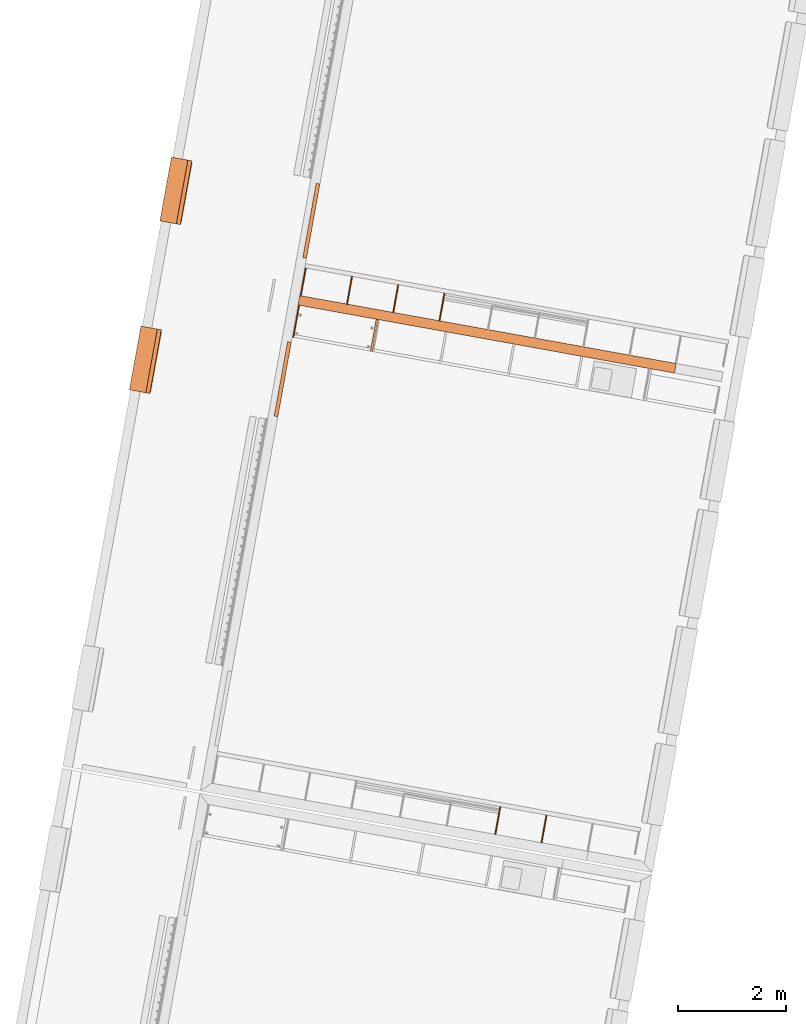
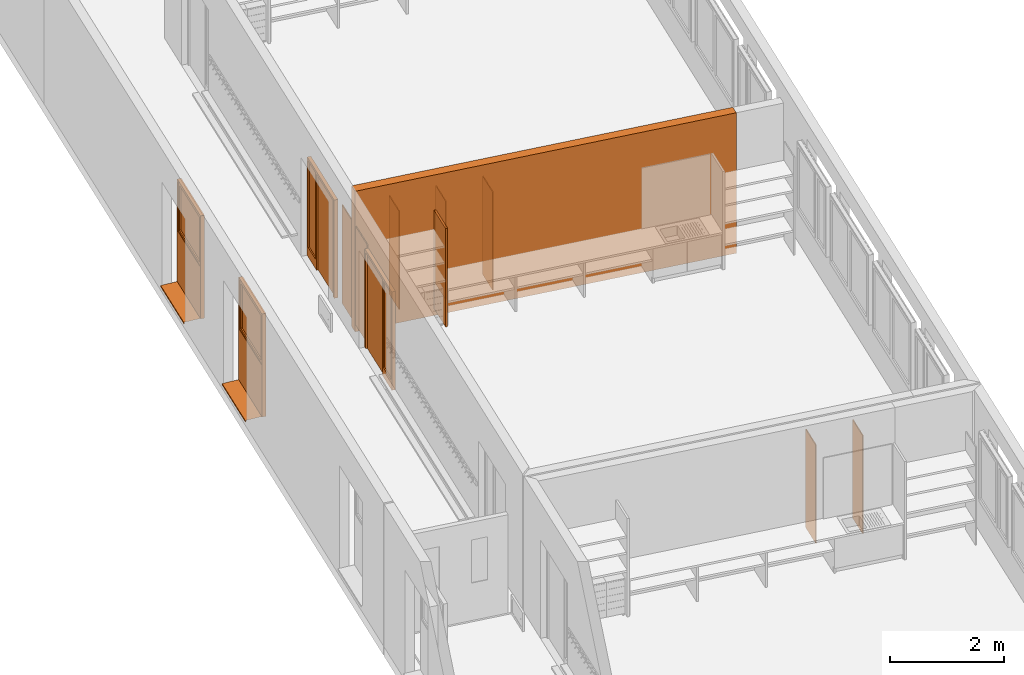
# One storey, part 21 of 52: 13 proxies.
"""IFC2X3 building model written with IfcOpenShell, lengths in metres."""

from ifc_helpers import new_model, entity, si_unit, converted_unit, derived_unit, money_unit, direction, frame, origin_with_axes, place, context, subcontext, project, spatial, polyline, outline, extrude, open_shell, faceted_brep, surface_model, source, transform, mapped, material, type_object, element, save


model = new_model("IFC2X3")

# Units and contexts
model_context = context("Model", 3, precision=1e-05, world=origin_with_axes(), true_north=direction((0.0, 1.0)))
body_context = subcontext(model_context, "Body", "Model", "MODEL_VIEW")
ifc_project = project(units=[si_unit("LENGTHUNIT", "METRE"), si_unit("AREAUNIT", "SQUARE_METRE"), si_unit("VOLUMEUNIT", "CUBIC_METRE"), converted_unit("PLANEANGLEUNIT", "DEGREE", entity("IfcPlaneAngleMeasure", 0.0174532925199), si_unit("PLANEANGLEUNIT", "RADIAN"), dimensions=[0, 0, 0, 0, 0, 0, 0]), money_unit("CHF"), converted_unit("TIMEUNIT", "Year", entity("IfcTimeMeasure", 31556926.0), si_unit("TIMEUNIT", "SECOND"), dimensions=[0, 0, 1, 0, 0, 0, 0]), si_unit("MASSUNIT", "GRAM", prefix="KILO"), si_unit("THERMODYNAMICTEMPERATUREUNIT", "DEGREE_CELSIUS"), si_unit("LUMINOUSINTENSITYUNIT", "LUMEN"), si_unit("ENERGYUNIT", "JOULE", prefix="MEGA"), derived_unit("THERMALCONDUCTANCEUNIT", [(si_unit("POWERUNIT", "WATT"), 1), (si_unit("LENGTHUNIT", "METRE"), -1), (si_unit("THERMODYNAMICTEMPERATUREUNIT", "KELVIN"), -1)]), derived_unit("SPECIFICHEATCAPACITYUNIT", [(si_unit("ENERGYUNIT", "JOULE"), 1), (si_unit("MASSUNIT", "GRAM", prefix="KILO"), -1), (si_unit("THERMODYNAMICTEMPERATUREUNIT", "KELVIN"), -1)]), derived_unit("MASSDENSITYUNIT", [(si_unit("MASSUNIT", "GRAM", prefix="KILO"), 1), (si_unit("VOLUMEUNIT", "CUBIC_METRE"), -1)])], contexts=[model_context])

# Site, building, storey
site_placement = place(None, frame((0.0, 0.0, 0.0), z_axis=(0.0, 0.0, 1.0), x_axis=(-0.177771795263, -0.984071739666, 0.0)))
site = spatial("IfcSite", under=ifc_project, at=site_placement, Name="Site", CompositionType="ELEMENT")
building_placement = place(site_placement, origin_with_axes())
building = spatial("IfcBuilding", under=site, at=building_placement, Name="Bâtiment", CompositionType="ELEMENT")
storey_placement = place(building_placement, frame((0.0, 0.0, 3.2), z_axis=(0.0, 0.0, 1.0), x_axis=(1.0, 0.0, 0.0)))
storey = spatial("IfcBuildingStorey", under=building, at=storey_placement, Name="R+1", CompositionType="ELEMENT", Elevation=3.2)

# Proxies
ifc_material_1 = material(Name="_BA banché RAL9007")
building_element_proxy_type_1 = type_object("IfcBuildingElementProxyType", Name="_BA banché RAL9007 180", PredefinedType="NOTDEFINED")
proxy_1_placement = place(storey_placement, frame((119.284841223, -156.627151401, -0.15), z_axis=(0.0, 0.0, 1.0), x_axis=(0.0, 1.0, 0.0)))
element("IfcBuildingElementProxy", 1, at=proxy_1_placement, inside=storey, type_object=building_element_proxy_type_1, material=ifc_material_1, Name="M refend", context=body_context, shape_type="SweptSolid", body=[
    extrude(outline(polyline([(0.18, 0.0), (7.26899999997, 0.0), (7.26899999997, 0.18), (0.179999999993, 0.18), (0.18, 0.0)])), origin_with_axes(), (0.0, 0.0, 1.0), 3.0),
])
ifc_material_2 = material(Name="_panneau mélaminé")
building_element_proxy_type_2 = type_object("IfcBuildingElementProxyType", Name="_panneau mélaminé 40", PredefinedType="NOTDEFINED")
proxy_2_placement = place(storey_placement, frame((119.884841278, -154.978236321, 0.0), z_axis=(0.0, 0.0, 1.0), x_axis=(-1.0, 0.0, 0.0)))
element("IfcBuildingElementProxy", 2, at=proxy_2_placement, inside=storey, type_object=building_element_proxy_type_2, material=ifc_material_2, Name="cloison-fd-classe G", context=body_context, shape_type="SweptSolid", body=[
    extrude(outline(polyline([(0.0, -0.04), (0.600000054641, -0.04), (0.600000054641, 0.0), (0.0, 0.0), (0.0, -0.04)])), origin_with_axes(), (0.0, 0.0, 1.0), 2.1),
])
building_element_proxy_type_3 = type_object("IfcBuildingElementProxyType", Name="_panneau mélaminé 19", PredefinedType="NOTDEFINED")
proxy_3_placement = place(storey_placement, frame((119.104841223, -156.418136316, 0.0), z_axis=(0.0, 0.0, 1.0), x_axis=(-1.0, 0.0, 0.0)))
element("IfcBuildingElementProxy", 3, at=proxy_3_placement, inside=storey, type_object=building_element_proxy_type_3, material=ifc_material_2, Name="cloison pl-classe", context=body_context, shape_type="SweptSolid", body=[
    extrude(outline(polyline([(0.0, 0.0), (0.519999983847, 0.0), (0.519999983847, 0.019), (0.0, 0.019), (0.0, 0.0)])), origin_with_axes(), (0.0, 0.0, 1.0), 2.1),
])
proxy_4_placement = place(storey_placement, frame((119.104841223, -155.556651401, 0.0), z_axis=(0.0, 0.0, 1.0), x_axis=(-1.0, 0.0, 0.0)))
element("IfcBuildingElementProxy", 4, at=proxy_4_placement, inside=storey, type_object=building_element_proxy_type_3, material=ifc_material_2, Name="cloison pl-classe", context=body_context, shape_type="SweptSolid", body=[
    extrude(outline(polyline([(0.0, -0.0095), (0.519999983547, -0.0095), (0.519999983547, 0.0095), (0.0, 0.0095), (0.0, -0.0095)])), origin_with_axes(), (0.0, 0.0, 1.0), 2.1),
])
proxy_5_placement = place(storey_placement, frame((119.104841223, -153.816651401, 0.0), z_axis=(0.0, 0.0, 1.0), x_axis=(-1.0, 0.0, 0.0)))
element("IfcBuildingElementProxy", 5, at=proxy_5_placement, inside=storey, type_object=building_element_proxy_type_3, material=ifc_material_2, Name="cloison pl-classe", context=body_context, shape_type="SweptSolid", body=[
    extrude(outline(polyline([(0.0, -0.0095), (0.519999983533, -0.0095), (0.519999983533, 0.0095), (0.0, 0.0095), (0.0, -0.0095)])), origin_with_axes(), (0.0, 0.0, 1.0), 2.1),
])
proxy_6_placement = place(storey_placement, frame((119.104841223, -154.686651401, 0.0), z_axis=(0.0, 0.0, 1.0), x_axis=(-1.0, 0.0, 0.0)))
element("IfcBuildingElementProxy", 6, at=proxy_6_placement, inside=storey, type_object=building_element_proxy_type_3, material=ifc_material_2, Name="cloison pl-classe", context=body_context, shape_type="SweptSolid", body=[
    extrude(outline(polyline([(0.0, -0.0095), (0.519999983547, -0.0095), (0.519999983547, 0.0095), (0.0, 0.0095), (0.0, -0.0095)])), origin_with_axes(), (0.0, 0.0, 1.0), 2.1),
])
proxy_7_placement = place(storey_placement, frame((128.284841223, -151.107651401, 0.0), z_axis=(0.0, 0.0, 1.0), x_axis=(-1.0, 0.0, 0.0)))
element("IfcBuildingElementProxy", 7, at=proxy_7_placement, inside=storey, type_object=building_element_proxy_type_3, material=ifc_material_2, Name="cloison pl-classe", context=body_context, shape_type="SweptSolid", body=[
    extrude(outline(polyline([(0.0, -0.0095), (0.519999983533, -0.0095), (0.519999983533, 0.0095), (0.0, 0.0095), (0.0, -0.0095)])), origin_with_axes(), (0.0, 0.0, 1.0), 2.1),
])
proxy_8_placement = place(storey_placement, frame((128.28484124, -150.237651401, 0.0), z_axis=(0.0, 0.0, 1.0), x_axis=(-1.0, 0.0, 0.0)))
element("IfcBuildingElementProxy", 8, at=proxy_8_placement, inside=storey, type_object=building_element_proxy_type_3, material=ifc_material_2, Name="cloison pl-classe", context=body_context, shape_type="SweptSolid", body=[
    extrude(outline(polyline([(0.0, -0.0095), (0.519999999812, -0.0095), (0.519999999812, 0.0095), (0.0, 0.0095), (0.0, -0.0095)])), origin_with_axes(), (0.0, 0.0, 1.0), 2.1),
])
proxy_9_placement = place(storey_placement, frame((119.884841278, -156.418151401, 0.0), z_axis=(0.0, 0.0, 1.0), x_axis=(-1.0, 0.0, 0.0)))
element("IfcBuildingElementProxy", 9, at=proxy_9_placement, inside=storey, type_object=building_element_proxy_type_3, material=ifc_material_2, Name="cloison-fd-classe G", context=body_context, shape_type="SweptSolid", body=[
    extrude(outline(polyline([(0.0, 0.0), (0.600000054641, 0.0), (0.600000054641, 0.019), (0.0, 0.019), (0.0, 0.0)])), origin_with_axes(), (0.0, 0.0, 1.0), 2.1),
])
ifc_material_3 = material(Name="Matériau de construction IFC")
building_element_proxy_type_4 = type_object("IfcBuildingElementProxyType", Name="Porte avec tierce vitrée côté 2 21", PredefinedType="NOTDEFINED")
shared_shape_1 = source(origin_with_axes(), body_context, "Body", "SurfaceModel", [
    faceted_brep([(0.0, 0.180000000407, 0.0), (0.05, 0.180000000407, 0.0), (0.05, 0.110000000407, 0.0), (0.0, 0.110000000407, 0.0), (0.0, 0.180000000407, 2.05), (0.05, 0.180000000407, 2.05), (0.05, 0.180000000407, 0.2), (0.05, 0.110000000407, 0.2), (0.05, 0.110000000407, 2.05), (0.0, 0.110000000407, 2.05)], [[[0, 1, 2, 3]], [[0, 4, 5, 6, 1]], [[1, 6, 7, 2]], [[3, 2, 7, 8, 9]], [[4, 0, 3, 9]], [[5, 4, 9, 8]], [[6, 5, 8, 7]]]),
    faceted_brep([(0.49, 0.140000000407, 0.0), (0.49, 0.140000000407, 2.05), (0.49, 0.110000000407, 2.05), (0.49, 0.110000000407, 0.0), (0.47, 0.140000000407, 2.05), (0.47, 0.140000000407, 0.0), (0.47, 0.180000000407, 2.05), (0.44, 0.180000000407, 2.05), (0.44, 0.110000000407, 2.05), (0.44, 0.110000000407, 0.0), (0.44, 0.110000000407, 0.2), (0.44, 0.180000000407, 0.0), (0.47, 0.180000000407, 0.0), (0.44, 0.180000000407, 0.2)], [[[0, 1, 2, 3]], [[4, 1, 0, 5]], [[4, 6, 7, 8, 2, 1]], [[9, 3, 2, 8, 10]], [[5, 0, 3, 9, 11, 12]], [[6, 4, 5, 12]], [[6, 12, 11, 13, 7]], [[13, 10, 8, 7]], [[11, 9, 10, 13]]]),
    faceted_brep([(0.05, 0.180000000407, 0.2), (0.05, 0.180000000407, 0.0), (0.05, 0.110000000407, 0.0), (0.05, 0.110000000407, 0.2), (0.44, 0.180000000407, 0.2), (0.44, 0.180000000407, 0.0), (0.44, 0.110000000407, 0.0), (0.44, 0.110000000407, 0.2)], [[[0, 1, 2, 3]], [[0, 4, 5, 1]], [[1, 5, 6, 2]], [[3, 2, 6, 7]], [[4, 0, 3, 7]], [[5, 4, 7, 6]]]),
    faceted_brep([(1.37, 0.140000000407, 2.05), (1.35, 0.140000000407, 2.05), (1.35, 0.110000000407, 2.05), (1.4, 0.110000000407, 2.05), (1.4, 0.180000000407, 2.05), (1.37, 0.180000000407, 2.05), (1.37, 0.140000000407, 0.0), (1.35, 0.140000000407, 0.0), (1.35, 0.110000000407, 0.0), (1.4, 0.110000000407, 0.0), (1.4, 0.180000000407, 0.0), (1.37, 0.180000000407, 0.0)], [[[0, 1, 2, 3, 4, 5]], [[1, 0, 6, 7]], [[1, 7, 8, 2]], [[3, 2, 8, 9]], [[4, 3, 9, 10]], [[11, 5, 4, 10]], [[0, 5, 11, 6]], [[6, 11, 10, 9, 8, 7]]]),
    faceted_brep([(0.47, 0.180000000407, 2.07), (0.47, 0.180000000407, 2.05), (0.44, 0.180000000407, 2.05), (0.05, 0.180000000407, 2.05), (0.0, 0.180000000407, 2.05), (0.0, 0.180000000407, 2.1), (1.4, 0.180000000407, 2.1), (1.4, 0.180000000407, 2.05), (1.37, 0.180000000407, 2.05), (1.37, 0.180000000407, 2.07), (0.47, 0.140000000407, 2.07), (0.47, 0.140000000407, 2.05), (1.35, 0.140000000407, 2.05), (1.35, 0.110000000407, 2.05), (0.49, 0.110000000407, 2.05), (0.44, 0.110000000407, 2.05), (0.05, 0.110000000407, 2.05), (0.0, 0.110000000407, 2.05), (0.0, 0.110000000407, 2.1), (1.4, 0.110000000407, 2.1), (1.4, 0.110000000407, 2.05), (1.37, 0.140000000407, 2.05), (1.37, 0.140000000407, 2.07)], [[[0, 1, 2, 3, 4, 5, 6, 7, 8, 9]], [[1, 0, 10, 11]], [[11, 12, 13, 14, 15, 2, 1]], [[2, 15, 16, 3]], [[3, 16, 17, 4]], [[4, 17, 18, 5]], [[5, 18, 19, 6]], [[6, 19, 20, 7]], [[21, 8, 7, 20, 13, 12]], [[9, 8, 21, 22]], [[0, 9, 22, 10]], [[21, 12, 11, 10, 22]], [[13, 20, 19, 18, 17, 16, 15, 14]]]),
    faceted_brep([(1.37, 0.180000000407, 0.0), (1.37, 0.140000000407, 0.0), (0.47, 0.140000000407, 0.0), (0.47, 0.180000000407, 0.0), (1.37, 0.180000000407, 2.07), (1.37, 0.140000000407, 2.07), (0.47, 0.140000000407, 2.07), (0.47, 0.180000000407, 2.07)], [[[0, 1, 2, 3]], [[4, 5, 1, 0]], [[1, 5, 6, 2]], [[3, 2, 6, 7]], [[0, 3, 7, 4]], [[7, 6, 5, 4]]]),
    surface_model("IfcShellBasedSurfaceModel", [(0.05, 0.145000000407, 0.2), (0.05, 0.145000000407, 2.05), (0.44, 0.145000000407, 2.05), (0.44, 0.145000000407, 0.2)], [open_shell([[[0, 1, 2, 3]]])]),
    surface_model("IfcShellBasedSurfaceModel", [(0.05, 0.135000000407, 0.2), (0.44, 0.135000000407, 0.2), (0.44, 0.135000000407, 2.05), (0.05, 0.135000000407, 2.05)], [open_shell([[[0, 1, 2, 3]]])]),
])
proxy_10_placement = place(storey_placement, frame((117.004841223, -156.627151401, 0.0), z_axis=(0.0, 0.0, 1.0), x_axis=(1.0, 0.0, 0.0)))
element("IfcBuildingElementProxy", 10, at=proxy_10_placement, inside=storey, type_object=building_element_proxy_type_4, material=ifc_material_3, Name="12", context=body_context, shape_type="MappedRepresentation", body=[
    mapped(shared_shape_1, transform((0.0, 0.0, 0.0))),
])
shared_shape_2 = source(origin_with_axes(), body_context, "Body", "SurfaceModel", [
    faceted_brep([(1.4, 0.180000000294, 0.0), (1.4, 0.110000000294, 0.0), (1.35, 0.110000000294, 0.0), (1.35, 0.180000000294, 0.0), (1.4, 0.180000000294, 2.05), (1.4, 0.110000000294, 2.05), (1.35, 0.110000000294, 2.05), (1.35, 0.110000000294, 0.2), (1.35, 0.180000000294, 0.2), (1.35, 0.180000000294, 2.05)], [[[0, 1, 2, 3]], [[4, 5, 1, 0]], [[1, 5, 6, 7, 2]], [[3, 2, 7, 8]], [[0, 3, 8, 9, 4]], [[9, 6, 5, 4]], [[8, 7, 6, 9]]]),
    faceted_brep([(0.91, 0.140000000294, 0.0), (0.91, 0.110000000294, 0.0), (0.91, 0.110000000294, 2.05), (0.91, 0.140000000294, 2.05), (0.93, 0.140000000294, 0.0), (0.93, 0.180000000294, 0.0), (0.96, 0.180000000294, 0.0), (0.96, 0.110000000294, 0.0), (0.96, 0.110000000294, 0.2), (0.96, 0.110000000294, 2.05), (0.93, 0.140000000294, 2.05), (0.96, 0.180000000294, 2.05), (0.93, 0.180000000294, 2.05), (0.96, 0.180000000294, 0.2)], [[[0, 1, 2, 3]], [[4, 5, 6, 7, 1, 0]], [[7, 8, 9, 2, 1]], [[10, 3, 2, 9, 11, 12]], [[10, 4, 0, 3]], [[12, 5, 4, 10]], [[12, 11, 13, 6, 5]], [[6, 13, 8, 7]], [[13, 11, 9, 8]]]),
    faceted_brep([(1.35, 0.180000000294, 0.2), (1.35, 0.110000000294, 0.2), (1.35, 0.110000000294, 0.0), (1.35, 0.180000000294, 0.0), (0.96, 0.180000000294, 0.2), (0.96, 0.110000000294, 0.2), (0.96, 0.110000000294, 0.0), (0.96, 0.180000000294, 0.0)], [[[0, 1, 2, 3]], [[4, 5, 1, 0]], [[1, 5, 6, 2]], [[3, 2, 6, 7]], [[0, 3, 7, 4]], [[7, 6, 5, 4]]]),
    faceted_brep([(0.03, 0.140000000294, 2.05), (0.03, 0.180000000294, 2.05), (0.0, 0.180000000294, 2.05), (0.0, 0.110000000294, 2.05), (0.05, 0.110000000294, 2.05), (0.05, 0.140000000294, 2.05), (0.03, 0.140000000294, 0.0), (0.03, 0.180000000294, 0.0), (0.0, 0.180000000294, 0.0), (0.0, 0.110000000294, 0.0), (0.05, 0.110000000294, 0.0), (0.05, 0.140000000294, 0.0)], [[[0, 1, 2, 3, 4, 5]], [[0, 6, 7, 1]], [[7, 8, 2, 1]], [[2, 8, 9, 3]], [[3, 9, 10, 4]], [[5, 4, 10, 11]], [[5, 11, 6, 0]], [[6, 11, 10, 9, 8, 7]]]),
    faceted_brep([(0.93, 0.180000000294, 2.07), (0.03, 0.180000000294, 2.07), (0.03, 0.180000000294, 2.05), (0.0, 0.180000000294, 2.05), (0.0, 0.180000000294, 2.1), (1.4, 0.180000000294, 2.1), (1.4, 0.180000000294, 2.05), (1.35, 0.180000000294, 2.05), (0.96, 0.180000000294, 2.05), (0.93, 0.180000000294, 2.05), (0.93, 0.140000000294, 2.07), (0.03, 0.140000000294, 2.07), (0.03, 0.140000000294, 2.05), (0.05, 0.140000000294, 2.05), (0.05, 0.110000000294, 2.05), (0.0, 0.110000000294, 2.05), (0.0, 0.110000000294, 2.1), (1.4, 0.110000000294, 2.1), (1.4, 0.110000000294, 2.05), (1.35, 0.110000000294, 2.05), (0.96, 0.110000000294, 2.05), (0.93, 0.140000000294, 2.05), (0.91, 0.110000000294, 2.05)], [[[0, 1, 2, 3, 4, 5, 6, 7, 8, 9]], [[0, 10, 11, 1]], [[1, 11, 12, 2]], [[12, 13, 14, 15, 3, 2]], [[4, 3, 15, 16]], [[5, 4, 16, 17]], [[6, 5, 17, 18]], [[7, 6, 18, 19]], [[8, 7, 19, 20]], [[21, 9, 8, 20, 22, 14, 13]], [[9, 21, 10, 0]], [[12, 11, 10, 21, 13]], [[14, 22, 20, 19, 18, 17, 16, 15]]]),
    faceted_brep([(0.03, 0.180000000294, 0.0), (0.93, 0.180000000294, 0.0), (0.93, 0.140000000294, 0.0), (0.03, 0.140000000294, 0.0), (0.03, 0.180000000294, 2.07), (0.93, 0.180000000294, 2.07), (0.93, 0.140000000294, 2.07), (0.03, 0.140000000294, 2.07)], [[[0, 1, 2, 3]], [[0, 4, 5, 1]], [[1, 5, 6, 2]], [[3, 2, 6, 7]], [[4, 0, 3, 7]], [[5, 4, 7, 6]]]),
    surface_model("IfcShellBasedSurfaceModel", [(1.35, 0.145000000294, 0.2), (0.96, 0.145000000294, 0.2), (0.96, 0.145000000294, 2.05), (1.35, 0.145000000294, 2.05)], [open_shell([[[0, 1, 2, 3]]])]),
    surface_model("IfcShellBasedSurfaceModel", [(1.35, 0.135000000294, 0.2), (1.35, 0.135000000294, 2.05), (0.96, 0.135000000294, 2.05), (0.96, 0.135000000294, 0.2)], [open_shell([[[0, 1, 2, 3]]])]),
])
proxy_11_placement = place(storey_placement, frame((119.984841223, -156.627151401, 0.0), z_axis=(0.0, 0.0, 1.0), x_axis=(1.0, 0.0, 0.0)))
element("IfcBuildingElementProxy", 11, at=proxy_11_placement, inside=storey, type_object=building_element_proxy_type_4, material=ifc_material_3, Name="13", context=body_context, shape_type="MappedRepresentation", body=[
    mapped(shared_shape_2, transform((0.0, 0.0, 0.0))),
])
building_element_proxy_type_5 = type_object("IfcBuildingElementProxyType", Name="Fenêtre variable 21", PredefinedType="NOTDEFINED")
shared_shape_3 = source(origin_with_axes(), body_context, "Body", "SurfaceModel", [
    surface_model("IfcShellBasedSurfaceModel", [(0.0, 0.284, 0.02), (0.0, 0.284, 0.01), (1.2, 0.284, 0.01), (1.2, 0.284, 0.02), (0.0, -0.025, -0.00087719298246), (1.2, -0.025, -0.00087719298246), (0.0, -0.025, -0.0308771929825), (1.2, -0.025, -0.0308771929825), (0.0, -0.0125, -0.0183771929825), (1.2, -0.0125, -0.0183771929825)], [open_shell([[[0, 1, 2, 3]], [[1, 4, 5, 2]], [[4, 6, 7, 5]], [[6, 8, 9, 7]]])]),
    faceted_brep([(0.02, 0.36, 2.169), (0.0, 0.36, 2.169), (0.0, 0.285, 2.169), (0.03, 0.285, 2.169), (0.03, 0.295, 2.169), (0.02, 0.295, 2.169), (0.02, 0.36, 1.095), (0.03, 0.36, 1.095), (0.03, 0.36, 1.055), (0.03, 0.36, 0.05), (0.0, 0.36, 0.05), (0.0, 0.285, 0.05), (0.03, 0.285, 1.105), (0.03, 0.285, 0.05), (0.03, 0.285, 1.055), (0.03, 0.295, 1.105), (0.03, 0.295, 1.095), (0.02, 0.295, 1.095)], [[[0, 1, 2, 3, 4, 5]], [[6, 7, 8, 9, 10, 1, 0]], [[1, 10, 11, 2]], [[12, 3, 2, 11, 13, 14]], [[4, 3, 12, 15]], [[15, 16, 17, 5, 4]], [[5, 17, 6, 0]], [[6, 17, 16, 7]], [[16, 15, 12, 14, 8, 7]], [[9, 8, 14, 13]], [[10, 9, 13, 11]]]),
    faceted_brep([(1.17, 0.295, 2.169), (1.17, 0.285, 2.169), (1.2, 0.285, 2.169), (1.2, 0.36, 2.169), (1.18, 0.36, 2.169), (1.18, 0.295, 2.169), (1.17, 0.295, 1.105), (1.17, 0.285, 1.105), (1.2, 0.285, 0.05), (1.17, 0.285, 1.055), (1.17, 0.285, 0.05), (1.2, 0.36, 0.05), (1.18, 0.36, 1.095), (1.17, 0.36, 0.05), (1.17, 0.36, 1.055), (1.17, 0.36, 1.095), (1.18, 0.295, 1.095), (1.17, 0.295, 1.095)], [[[0, 1, 2, 3, 4, 5]], [[6, 7, 1, 0]], [[8, 2, 1, 7, 9, 10]], [[11, 3, 2, 8]], [[12, 4, 3, 11, 13, 14, 15]], [[12, 16, 5, 4]], [[5, 16, 17, 6, 0]], [[17, 15, 14, 9, 7, 6]], [[14, 13, 10, 9]], [[13, 11, 8, 10]], [[15, 17, 16, 12]]]),
    faceted_brep([(0.03, 0.295, 1.105), (0.03, 0.285, 1.105), (1.17, 0.285, 1.105), (1.17, 0.295, 1.105), (0.03, 0.295, 1.095), (0.03, 0.36, 1.095), (0.03, 0.36, 1.055), (0.03, 0.285, 1.055), (1.17, 0.285, 1.055), (1.17, 0.295, 1.095), (1.17, 0.36, 1.055), (1.17, 0.36, 1.095)], [[[0, 1, 2, 3]], [[4, 5, 6, 7, 1, 0]], [[8, 2, 1, 7]], [[9, 3, 2, 8, 10, 11]], [[9, 4, 0, 3]], [[5, 4, 9, 11]], [[11, 10, 6, 5]], [[6, 10, 8, 7]]]),
    faceted_brep([(0.02, 0.36, 2.169), (0.0, 0.36, 2.169), (0.0, 0.36, 2.199), (1.2, 0.36, 2.199), (1.2, 0.36, 2.169), (1.18, 0.36, 2.169), (1.18, 0.36, 2.179), (0.02, 0.36, 2.179), (0.02, 0.295, 2.169), (0.03, 0.295, 2.169), (0.03, 0.285, 2.169), (0.0, 0.285, 2.169), (0.0, 0.285, 2.199), (1.2, 0.285, 2.199), (1.2, 0.285, 2.169), (1.18, 0.295, 2.169), (1.17, 0.285, 2.169), (1.17, 0.295, 2.169), (1.18, 0.295, 2.179), (0.02, 0.295, 2.179)], [[[0, 1, 2, 3, 4, 5, 6, 7]], [[8, 9, 10, 11, 1, 0]], [[2, 1, 11, 12]], [[3, 2, 12, 13]], [[4, 3, 13, 14]], [[15, 5, 4, 14, 16, 17]], [[5, 15, 18, 6]], [[6, 18, 19, 7]], [[7, 19, 8, 0]], [[17, 9, 8, 19, 18, 15]], [[17, 16, 10, 9]], [[14, 13, 12, 11, 10, 16]]]),
    faceted_brep([(0.03, 0.285, 0.05), (0.03, 0.36, 0.05), (0.0, 0.36, 0.05), (0.0, 0.285, 0.05), (1.17, 0.285, 0.05), (1.17, 0.36, 0.05), (1.2, 0.36, 0.05), (1.2, 0.36, 0.0), (0.0, 0.36, 0.0), (0.0, 0.285, 0.0), (1.2, 0.285, 0.0), (1.2, 0.285, 0.05)], [[[0, 1, 2, 3]], [[4, 5, 1, 0]], [[1, 5, 6, 7, 8, 2]], [[3, 2, 8, 9]], [[0, 3, 9, 10, 11, 4]], [[11, 6, 5, 4]], [[10, 7, 6, 11]], [[9, 8, 7, 10]]]),
    faceted_brep([(0.08, 0.295, 2.119), (0.08, 0.37, 2.119), (0.02, 0.37, 2.119), (0.02, 0.295, 2.119), (0.08, 0.295, 1.155), (0.08, 0.37, 1.155), (0.02, 0.37, 1.155), (0.02, 0.295, 1.155)], [[[0, 1, 2, 3]], [[4, 5, 1, 0]], [[1, 5, 6, 2]], [[3, 2, 6, 7]], [[0, 3, 7, 4]], [[7, 6, 5, 4]]]),
    faceted_brep([(1.12, 0.295, 1.155), (1.12, 0.37, 1.155), (1.18, 0.37, 1.155), (1.18, 0.295, 1.155), (1.12, 0.295, 2.119), (1.12, 0.37, 2.119), (1.18, 0.37, 2.119), (1.18, 0.295, 2.119)], [[[0, 1, 2, 3]], [[4, 5, 1, 0]], [[1, 5, 6, 2]], [[3, 2, 6, 7]], [[0, 3, 7, 4]], [[7, 6, 5, 4]]]),
    faceted_brep([(1.18, 0.295, 1.095), (1.18, 0.37, 1.095), (1.18, 0.37, 1.155), (1.18, 0.295, 1.155), (0.02, 0.295, 1.095), (0.02, 0.37, 1.095), (0.02, 0.37, 1.155), (0.08, 0.37, 1.155), (1.12, 0.37, 1.155), (1.12, 0.295, 1.155), (0.08, 0.295, 1.155), (0.02, 0.295, 1.155)], [[[0, 1, 2, 3]], [[4, 5, 1, 0]], [[1, 5, 6, 7, 8, 2]], [[3, 2, 8, 9]], [[0, 3, 9, 10, 11, 4]], [[11, 6, 5, 4]], [[10, 7, 6, 11]], [[9, 8, 7, 10]]]),
    faceted_brep([(0.02, 0.295, 2.179), (0.02, 0.37, 2.179), (0.02, 0.37, 2.119), (0.02, 0.295, 2.119), (1.18, 0.295, 2.179), (1.18, 0.37, 2.179), (1.18, 0.37, 2.119), (1.12, 0.37, 2.119), (0.08, 0.37, 2.119), (0.08, 0.295, 2.119), (1.12, 0.295, 2.119), (1.18, 0.295, 2.119)], [[[0, 1, 2, 3]], [[4, 5, 1, 0]], [[1, 5, 6, 7, 8, 2]], [[3, 2, 8, 9]], [[0, 3, 9, 10, 11, 4]], [[11, 6, 5, 4]], [[10, 7, 6, 11]], [[9, 8, 7, 10]]]),
    surface_model("IfcShellBasedSurfaceModel", [(0.08, 0.3225, 1.155), (1.12, 0.3225, 1.155), (1.12, 0.3225, 2.119), (0.08, 0.3225, 2.119)], [open_shell([[[0, 1, 2, 3]]])]),
    surface_model("IfcShellBasedSurfaceModel", [(0.08, 0.3425, 1.155), (0.08, 0.3425, 2.119), (1.12, 0.3425, 2.119), (1.12, 0.3425, 1.155)], [open_shell([[[0, 1, 2, 3]]])]),
    surface_model("IfcShellBasedSurfaceModel", [(0.03, 0.285, 0.05), (1.17, 0.285, 0.05), (1.17, 0.285, 1.055), (0.03, 0.285, 1.055)], [open_shell([[[0, 1, 2, 3]]])]),
    surface_model("IfcShellBasedSurfaceModel", [(0.03, 0.305, 0.05), (0.03, 0.305, 1.055), (1.17, 0.305, 1.055), (1.17, 0.305, 0.05)], [open_shell([[[0, 1, 2, 3]]])]),
])
proxy_12_placement = place(storey_placement, frame((120.184841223, -159.217107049, 0.001), z_axis=(0.0, 0.0, 1.0), x_axis=(1.0, 0.0, 0.0)))
element("IfcBuildingElementProxy", 12, at=proxy_12_placement, inside=storey, type_object=building_element_proxy_type_5, material=ifc_material_3, Name="Fen couloir", context=body_context, shape_type="MappedRepresentation", body=[
    mapped(shared_shape_3, transform((0.0, 0.0, 0.0))),
])
shared_shape_4 = source(origin_with_axes(), body_context, "Body", "SurfaceModel", [
    surface_model("IfcShellBasedSurfaceModel", [(1.2, 0.284, 0.02), (0.0, 0.284, 0.02), (0.0, 0.284, 0.01), (1.2, 0.284, 0.01), (0.0, -0.025, -0.00087719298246), (1.2, -0.025, -0.00087719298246), (0.0, -0.025, -0.0308771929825), (1.2, -0.025, -0.0308771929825), (0.0, -0.0125, -0.0183771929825), (1.2, -0.0125, -0.0183771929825)], [open_shell([[[0, 1, 2, 3]], [[3, 2, 4, 5]], [[5, 4, 6, 7]], [[7, 6, 8, 9]]])]),
    faceted_brep([(1.18, 0.36, 2.169), (1.18, 0.295, 2.169), (1.17, 0.295, 2.169), (1.17, 0.285, 2.169), (1.2, 0.285, 2.169), (1.2, 0.36, 2.169), (1.18, 0.36, 1.095), (1.18, 0.295, 1.095), (1.17, 0.295, 1.105), (1.17, 0.295, 1.095), (1.17, 0.285, 1.105), (1.17, 0.285, 1.055), (1.17, 0.285, 0.05), (1.2, 0.285, 0.05), (1.2, 0.36, 0.05), (1.17, 0.36, 0.05), (1.17, 0.36, 1.055), (1.17, 0.36, 1.095)], [[[0, 1, 2, 3, 4, 5]], [[1, 0, 6, 7]], [[8, 2, 1, 7, 9]], [[2, 8, 10, 3]], [[10, 11, 12, 13, 4, 3]], [[5, 4, 13, 14]], [[6, 0, 5, 14, 15, 16, 17]], [[6, 17, 9, 7]], [[9, 17, 16, 11, 10, 8]], [[15, 12, 11, 16]], [[14, 13, 12, 15]]]),
    faceted_brep([(0.03, 0.295, 2.169), (0.02, 0.295, 2.169), (0.02, 0.36, 2.169), (0.0, 0.36, 2.169), (0.0, 0.285, 2.169), (0.03, 0.285, 2.169), (0.03, 0.295, 1.105), (0.03, 0.295, 1.095), (0.02, 0.295, 1.095), (0.02, 0.36, 1.095), (0.03, 0.36, 1.095), (0.03, 0.36, 1.055), (0.03, 0.36, 0.05), (0.0, 0.36, 0.05), (0.0, 0.285, 0.05), (0.03, 0.285, 0.05), (0.03, 0.285, 1.055), (0.03, 0.285, 1.105)], [[[0, 1, 2, 3, 4, 5]], [[1, 0, 6, 7, 8]], [[9, 2, 1, 8]], [[9, 10, 11, 12, 13, 3, 2]], [[13, 14, 4, 3]], [[14, 15, 16, 17, 5, 4]], [[6, 0, 5, 17]], [[7, 6, 17, 16, 11, 10]], [[10, 9, 8, 7]], [[11, 16, 15, 12]], [[12, 15, 14, 13]]]),
    faceted_brep([(1.17, 0.295, 1.105), (0.03, 0.295, 1.105), (0.03, 0.285, 1.105), (1.17, 0.285, 1.105), (0.03, 0.295, 1.095), (1.17, 0.295, 1.095), (0.03, 0.36, 1.095), (0.03, 0.36, 1.055), (0.03, 0.285, 1.055), (1.17, 0.285, 1.055), (1.17, 0.36, 1.055), (1.17, 0.36, 1.095)], [[[0, 1, 2, 3]], [[4, 1, 0, 5]], [[4, 6, 7, 8, 2, 1]], [[8, 9, 3, 2]], [[5, 0, 3, 9, 10, 11]], [[11, 6, 4, 5]], [[6, 11, 10, 7]], [[10, 9, 8, 7]]]),
    faceted_brep([(1.18, 0.36, 2.169), (1.18, 0.36, 2.179), (0.02, 0.36, 2.179), (0.02, 0.36, 2.169), (0.0, 0.36, 2.169), (0.0, 0.36, 2.199), (1.2, 0.36, 2.199), (1.2, 0.36, 2.169), (1.18, 0.295, 2.169), (1.18, 0.295, 2.179), (0.02, 0.295, 2.179), (0.02, 0.295, 2.169), (0.03, 0.295, 2.169), (0.03, 0.285, 2.169), (0.0, 0.285, 2.169), (0.0, 0.285, 2.199), (1.2, 0.285, 2.199), (1.2, 0.285, 2.169), (1.17, 0.285, 2.169), (1.17, 0.295, 2.169)], [[[0, 1, 2, 3, 4, 5, 6, 7]], [[1, 0, 8, 9]], [[2, 1, 9, 10]], [[3, 2, 10, 11]], [[11, 12, 13, 14, 4, 3]], [[4, 14, 15, 5]], [[5, 15, 16, 6]], [[6, 16, 17, 7]], [[8, 0, 7, 17, 18, 19]], [[12, 11, 10, 9, 8, 19]], [[12, 19, 18, 13]], [[14, 13, 18, 17, 16, 15]]]),
    faceted_brep([(1.17, 0.285, 0.05), (1.2, 0.285, 0.05), (1.2, 0.36, 0.05), (1.17, 0.36, 0.05), (0.03, 0.285, 0.05), (0.0, 0.285, 0.05), (0.0, 0.285, 0.0), (1.2, 0.285, 0.0), (1.2, 0.36, 0.0), (0.0, 0.36, 0.0), (0.0, 0.36, 0.05), (0.03, 0.36, 0.05)], [[[0, 1, 2, 3]], [[0, 4, 5, 6, 7, 1]], [[1, 7, 8, 2]], [[3, 2, 8, 9, 10, 11]], [[4, 0, 3, 11]], [[5, 4, 11, 10]], [[6, 5, 10, 9]], [[7, 6, 9, 8]]]),
    faceted_brep([(1.12, 0.295, 2.119), (1.18, 0.295, 2.119), (1.18, 0.37, 2.119), (1.12, 0.37, 2.119), (1.12, 0.295, 1.155), (1.18, 0.295, 1.155), (1.18, 0.37, 1.155), (1.12, 0.37, 1.155)], [[[0, 1, 2, 3]], [[0, 4, 5, 1]], [[1, 5, 6, 2]], [[3, 2, 6, 7]], [[4, 0, 3, 7]], [[5, 4, 7, 6]]]),
    faceted_brep([(0.08, 0.295, 1.155), (0.02, 0.295, 1.155), (0.02, 0.37, 1.155), (0.08, 0.37, 1.155), (0.08, 0.295, 2.119), (0.02, 0.295, 2.119), (0.02, 0.37, 2.119), (0.08, 0.37, 2.119)], [[[0, 1, 2, 3]], [[0, 4, 5, 1]], [[1, 5, 6, 2]], [[3, 2, 6, 7]], [[4, 0, 3, 7]], [[5, 4, 7, 6]]]),
    faceted_brep([(0.02, 0.295, 1.095), (0.02, 0.295, 1.155), (0.02, 0.37, 1.155), (0.02, 0.37, 1.095), (1.18, 0.295, 1.095), (1.18, 0.295, 1.155), (1.12, 0.295, 1.155), (0.08, 0.295, 1.155), (0.08, 0.37, 1.155), (1.12, 0.37, 1.155), (1.18, 0.37, 1.155), (1.18, 0.37, 1.095)], [[[0, 1, 2, 3]], [[0, 4, 5, 6, 7, 1]], [[1, 7, 8, 2]], [[3, 2, 8, 9, 10, 11]], [[4, 0, 3, 11]], [[5, 4, 11, 10]], [[6, 5, 10, 9]], [[7, 6, 9, 8]]]),
    faceted_brep([(1.18, 0.295, 2.179), (1.18, 0.295, 2.119), (1.18, 0.37, 2.119), (1.18, 0.37, 2.179), (0.02, 0.295, 2.179), (0.02, 0.295, 2.119), (0.08, 0.295, 2.119), (1.12, 0.295, 2.119), (1.12, 0.37, 2.119), (0.08, 0.37, 2.119), (0.02, 0.37, 2.119), (0.02, 0.37, 2.179)], [[[0, 1, 2, 3]], [[0, 4, 5, 6, 7, 1]], [[1, 7, 8, 2]], [[3, 2, 8, 9, 10, 11]], [[4, 0, 3, 11]], [[5, 4, 11, 10]], [[6, 5, 10, 9]], [[7, 6, 9, 8]]]),
    surface_model("IfcShellBasedSurfaceModel", [(1.12, 0.3225, 1.155), (1.12, 0.3225, 2.119), (0.08, 0.3225, 2.119), (0.08, 0.3225, 1.155)], [open_shell([[[0, 1, 2, 3]]])]),
    surface_model("IfcShellBasedSurfaceModel", [(1.12, 0.3425, 1.155), (0.08, 0.3425, 1.155), (0.08, 0.3425, 2.119), (1.12, 0.3425, 2.119)], [open_shell([[[0, 1, 2, 3]]])]),
    surface_model("IfcShellBasedSurfaceModel", [(1.17, 0.285, 0.05), (1.17, 0.285, 1.055), (0.03, 0.285, 1.055), (0.03, 0.285, 0.05)], [open_shell([[[0, 1, 2, 3]]])]),
    surface_model("IfcShellBasedSurfaceModel", [(1.17, 0.305, 0.05), (0.03, 0.305, 0.05), (0.03, 0.305, 1.055), (1.17, 0.305, 1.055)], [open_shell([[[0, 1, 2, 3]]])]),
])
proxy_13_placement = place(storey_placement, frame((117.004841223, -159.217107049, 0.001), z_axis=(0.0, 0.0, 1.0), x_axis=(1.0, 0.0, 0.0)))
element("IfcBuildingElementProxy", 13, at=proxy_13_placement, inside=storey, type_object=building_element_proxy_type_5, material=ifc_material_3, Name="Fen couloir", context=body_context, shape_type="MappedRepresentation", body=[
    mapped(shared_shape_4, transform((0.0, 0.0, 0.0))),
])

save(model, "model.ifc")
